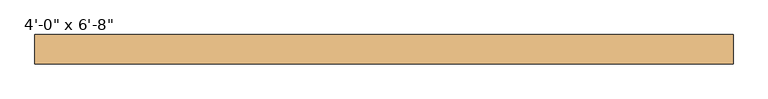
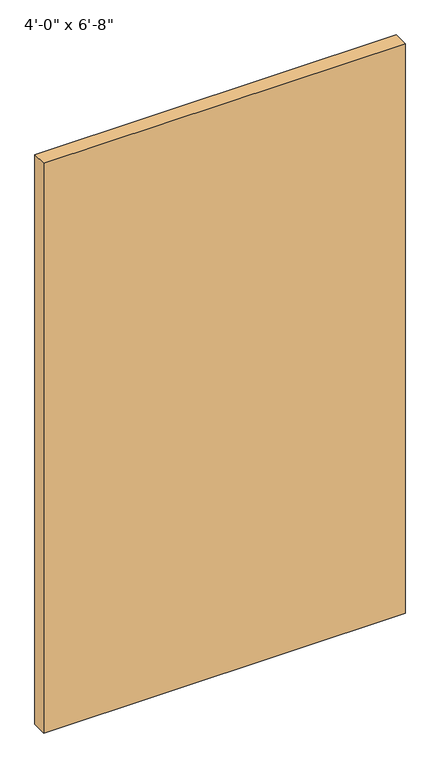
"""IFC4 building model written with IfcOpenShell, lengths in millimetres: door geometry."""

from ifc_helpers import new_model, si_unit, origin, origin_with_axes, place, context, project, spatial, polyline, outline, extrude, source, transform, mapped, element, save


def door_61cb701e(model_context):
    return source(origin(), model_context, "Body", "SweptSolid", [
        extrude(outline(polyline([(609.6, -25.2015625), (609.6, -76.2), (-609.6, -76.2), (-609.6, -25.2015625), (609.6, -25.2015625)])), origin_with_axes(), (0.0, 0.0, 1.0), 2032.0),
    ])


if __name__ == "__main__":
    model = new_model("IFC4")
    model_context = context("Model", 3, world=origin())
    ifc_project = project(units=[si_unit("LENGTHUNIT", "METRE", prefix="MILLI")], contexts=[model_context])
    site = spatial("IfcSite", under=ifc_project)
    building = spatial("IfcBuilding", under=site)
    placement = place(None, origin())
    door_shape = door_61cb701e(model_context)
    element("IfcDoor", 1, ObjectType="Planitar - Single Door_Flush Panel : 4'-0\" x 6'-8\"", at=placement, inside=building, context=model_context, shape_type="MappedRepresentation", body=[
        mapped(door_shape, transform((0.0, 0.0, 0.0), x_axis=(1.0, 0.0, 0.0), y_axis=(0.0, 1.0, 0.0), z_axis=(0.0, 0.0, 1.0))),
    ])
    save(model, "model.ifc")
